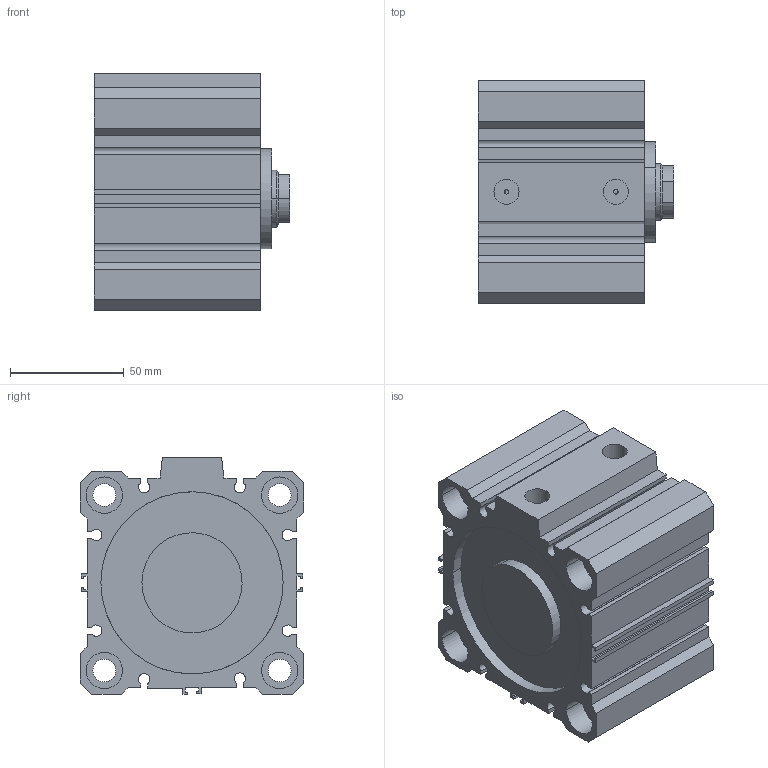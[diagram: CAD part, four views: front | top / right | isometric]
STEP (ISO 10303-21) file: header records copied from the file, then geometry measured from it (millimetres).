
FILE_DESCRIPTION(('CATIA V5 STEP Exchange'),'2;1');
FILE_NAME('D:\PDA\PDA-STP\PDA 80-25\PDA 80-25-20.stp','2016-02-02T11:03:12+00:00',('none'),('none'),'Version 5-6 Release 2012','CATIA V5 STEP AP203','none');
FILE_SCHEMA(('CONFIG_CONTROL_DESIGN'));
Length unit declared in the file: millimetre
Products named in the file (1): PDA 80-25-20-00
Assembly tree (2 placements, depth 2):
  PDA 80-25-20-00
    #58
    #4698
Bounding box: 86 x 98 x 104 mm (x, y, z)
Volume: 448450.8 mm3; surface area: 114812.8 mm2
Topology: 2 solids, 2 shells, 180 faces, 476 edges, 316 vertices
Faces by surface type: plane 114, cylinder 64, cone 2
Entity records: 5167 total; most frequent: ORIENTED_EDGE 952, CARTESIAN_POINT 930, DIRECTION 672, EDGE_CURVE 476, VECTOR 334, LINE 334, VERTEX_POINT 316, AXIS2_PLACEMENT_3D 236
